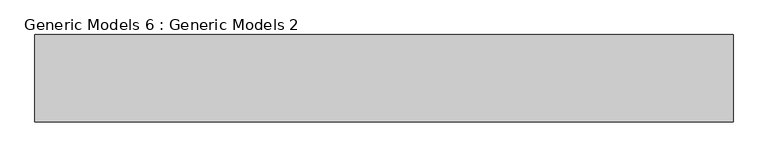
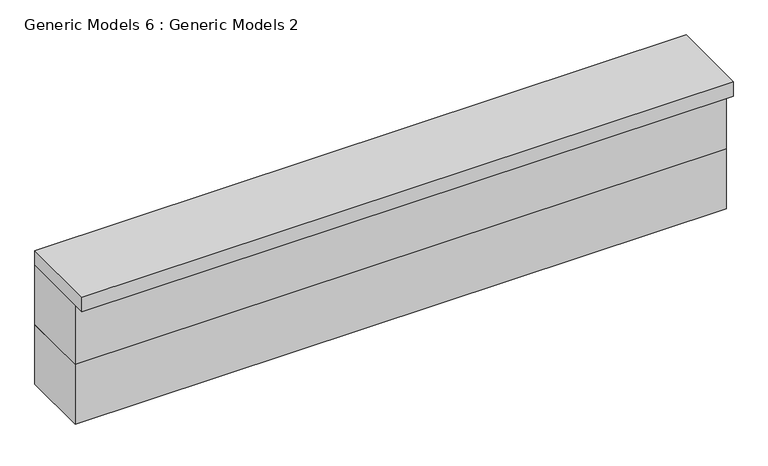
"""IFC4 building model written with IfcOpenShell, lengths in millimetres: proxy geometry, Generic Models 6 : Generic Models 2."""

from ifc_helpers import new_model, si_unit, frame, origin, place, context, project, spatial, polyline, outline, extrude, source, transform, mapped, element, save


def generic_models_6_generic_models_2_9ead7fc9(model_context):
    return source(origin(), model_context, "Body", "SweptSolid", [
        extrude(outline(polyline([(-11118.5171482, -3948.5667324), (-9260.1539512, -3948.5667324), (-9260.1539512, -4180.8500575), (-11118.5171482, -4180.8500575), (-11118.5171482, -3948.5667324)])), frame((0.0, 0.0, 6660.0), z_axis=(0.0, 0.0, 1.0), x_axis=(1.0, 0.0, 0.0)), (0.0, 0.0, 1.0), 43.5380954),
        extrude(outline(polyline([(-9260.1539512, -4146.8103924), (-11118.5171482, -4146.8103924), (-11118.5171482, -3948.5667324), (-9260.1539512, -3948.5667324), (-9260.1539512, -4146.8103924)])), frame((0.0, 0.0, 6480.0), z_axis=(0.0, 0.0, 1.0), x_axis=(1.0, 0.0, 0.0)), (0.0, 0.0, 1.0), 180.0),
        extrude(outline(polyline([(-9260.1539512, -4146.8103924), (-11118.5171482, -4146.8103924), (-11118.5171482, -3948.5667324), (-9260.1539512, -3948.5667324), (-9260.1539512, -4146.8103924)])), frame((0.0, 0.0, 6300.0), z_axis=(0.0, 0.0, 1.0), x_axis=(1.0, 0.0, 0.0)), (0.0, 0.0, 1.0), 180.0),
    ])


if __name__ == "__main__":
    model = new_model("IFC4")
    model_context = context("Model", 3, world=origin())
    ifc_project = project(units=[si_unit("LENGTHUNIT", "METRE", prefix="MILLI")], contexts=[model_context])
    site = spatial("IfcSite", under=ifc_project)
    building = spatial("IfcBuilding", under=site)
    placement = place(None, origin())
    generic_models_6_generic_models_2_shape = generic_models_6_generic_models_2_9ead7fc9(model_context)
    element("IfcBuildingElementProxy", 1, Name="Generic Models 6 : Generic Models 2", ObjectType="Generic Models 6 : Generic Models 2", at=placement, inside=building, context=model_context, shape_type="MappedRepresentation", body=[
        mapped(generic_models_6_generic_models_2_shape, transform((0.0, 0.0, 0.0), x_axis=(1.0, 0.0, 0.0), y_axis=(0.0, 1.0, 0.0), z_axis=(0.0, 0.0, 1.0))),
    ])
    save(model, "model.ifc")
